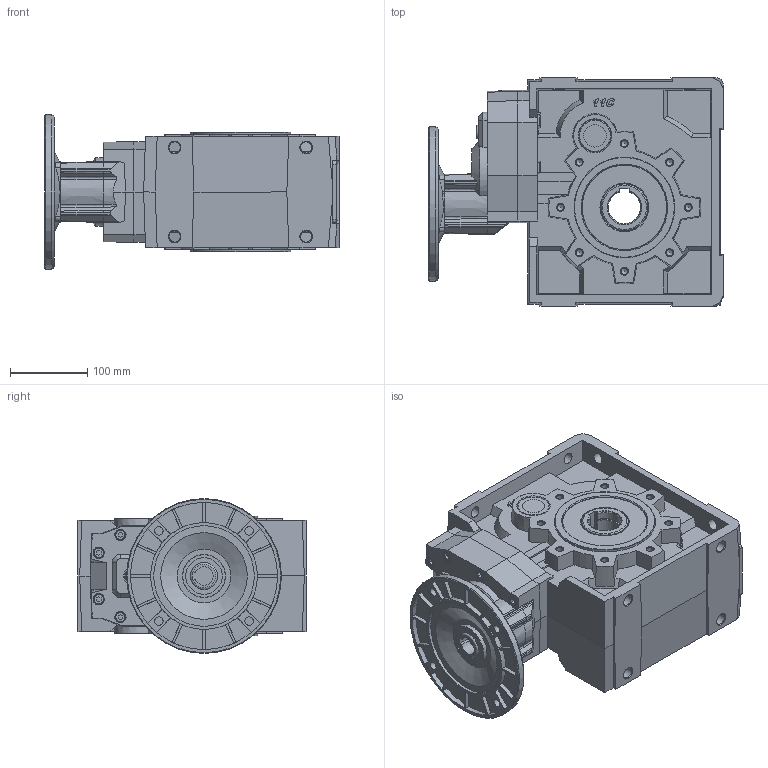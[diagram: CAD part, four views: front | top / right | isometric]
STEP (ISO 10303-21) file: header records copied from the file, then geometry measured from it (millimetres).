
FILE_DESCRIPTION( ( 'Unknown' ), '1' );
FILE_NAME( 'E:/services/configuratordownloads/customers/HYDROMEC/X/download/9DF596E3934EE4A13ACB7561E18E5C1D/STEP/9DF596E3934EE4A13ACB7561E18E5C1D.3d.stp', 'Unknown', ( 'Unknown' ), ( 'Unknown' ), 'PSStep 10.1', 'Unknown', ' ' );
FILE_SCHEMA( ( 'AUTOMOTIVE_DESIGN { 1 0 10303 214 1 1 1 1 }' ) );
Length unit declared in the file: millimetre
Products named in the file (1): 11C8800_NEW
Bounding box: 380 x 295 x 199.97 mm (x, y, z)
Volume: 10325452.8 mm3; surface area: 602985.8 mm2
Topology: 1 solids, 26 shells, 1059 faces, 2700 edges, 1751 vertices
Faces by surface type: plane 618, cylinder 206, cone 185, torus 29, bspline 21
Full cylindrical faces by diameter (mm): 4.917 x16, 5.6 x8, 6 x10, 6.647 x16, 7 x8, 8.376 x32, 11 x4, 12 x8, 13 x8, 13.5 x1, 14.5 x12, 18 x1, 19 x1, 21 x1, 29 x2, 35 x2, 47 x2, 110 x2, 130 x3
Entity records: 40732 total; most frequent: CARTESIAN_POINT 8423, DIRECTION 4874, ORIENTED_EDGE 4548, EDGE_CURVE 2274, AXIS2_PLACEMENT_3D 1791, VERTEX_POINT 1648, EDGE_LOOP 1444, LINE 1292
